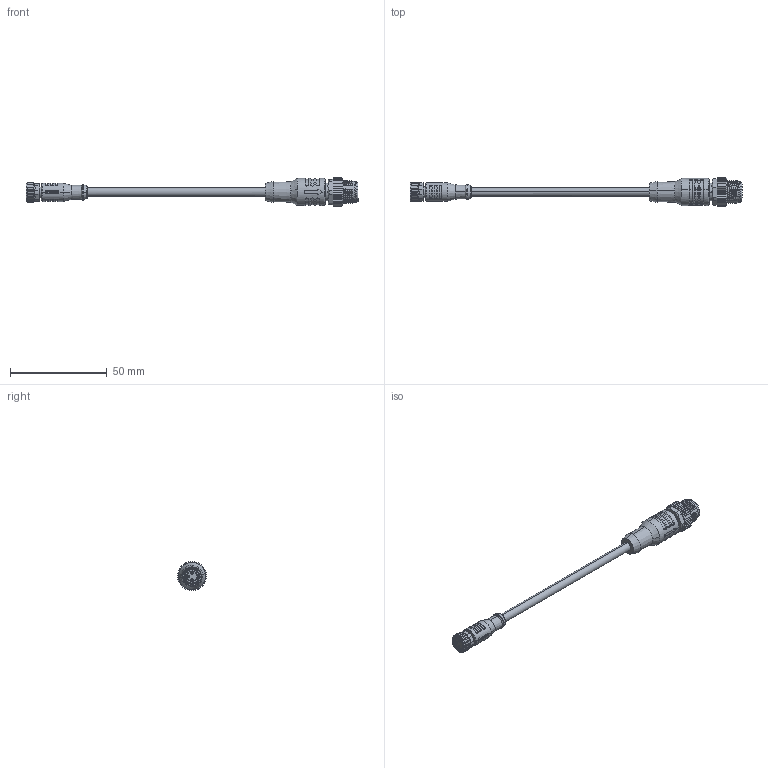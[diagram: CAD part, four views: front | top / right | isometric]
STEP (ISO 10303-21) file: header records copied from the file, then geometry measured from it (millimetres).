
FILE_DESCRIPTION (( 'STEP AP203' ), '1' );
FILE_NAME ('63D251-XXX.STEP', '2024-12-04T08:04:33', ( 'L' ), ( '' ), 'SwSTEP 2.0', 'SolidWorks 2019', '' );
FILE_SCHEMA (( 'CONFIG_CONTROL_DESIGN' ));
Length unit declared in the file: millimetre
Products named in the file (1): 63D251-XXX
Bounding box: 171.39 x 15 x 14.99 mm (x, y, z)
Volume: 8386.8 mm3; surface area: 6667.6 mm2
Topology: 1 solids, 1 shells, 1179 faces, 3344 edges, 2194 vertices
Faces by surface type: plane 511, cylinder 354, cone 167, bspline 118, torus 29
Entity records: 56550 total; most frequent: CARTESIAN_POINT 27906, ORIENTED_EDGE 6676, DIRECTION 5088, EDGE_CURVE 3338, VERTEX_POINT 2194, AXIS2_PLACEMENT_3D 1873, LINE 1342, VECTOR 1342
